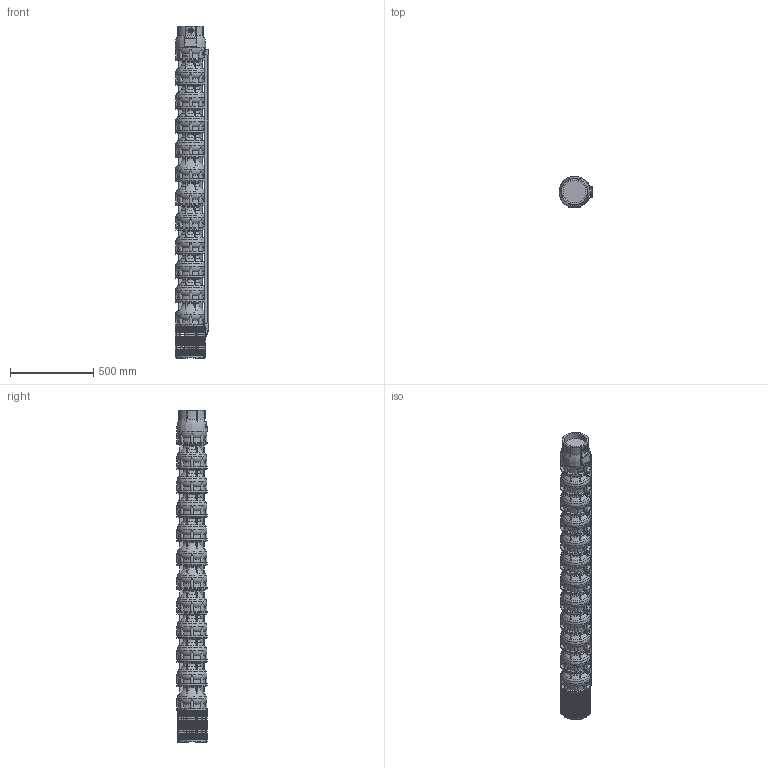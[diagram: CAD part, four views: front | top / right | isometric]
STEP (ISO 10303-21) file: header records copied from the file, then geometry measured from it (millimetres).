
FILE_DESCRIPTION(/* description */ ('Unknown'),/* implementation_level */ '2;1');
FILE_NAME(/* name */ 'VSI134-11_WR_M8-50_DLE',/* time_stamp */ '2023-09-14T14:37:12+02:00',/* author */ ('Unknown'),/* organization */ ('Unknown'),/* preprocessor_version */ 'ST-DEVELOPER v18.102',/* originating_system */ 'Solid Edge',/* authorisation */ 'Unknown');
FILE_SCHEMA (('AUTOMOTIVE_DESIGN {1 0 10303 214 3 1 1}'));
Products named in the file (11): VSI134-11_WR_M8-50_DLE; VSI134_testata; VSI134_diffusore; VSI134_supporto_8×8; VSI134_filtro_A; VSI134_filtro_B; VSI134_terminale_top_copricavo_basso; VSI134_terminale_bottom_copricavo_basso; LOW 134-11; M5X8_UNI7687; VSI134_giunto_8×8
Assembly tree (29 placements, depth 2):
  VSI134-11_WR_M8-50_DLE
    VSI134_testata
    VSI134_diffusore  x11
    VSI134_supporto_8×8
    VSI134_filtro_A
    VSI134_filtro_B
    VSI134_terminale_top_copricavo_basso
    VSI134_terminale_bottom_copricavo_basso
    LOW 134-11
    M5X8_UNI7687  x10
    VSI134_giunto_8×8
Bounding box: 201.57 x 183.52 x 1992 mm (x, y, z)
Volume: 36098196.6 mm3; surface area: 2684846.3 mm2
Topology: 68 solids, 70 shells, 4325 faces, 12221 edges, 8157 vertices
Faces by surface type: plane 3129, cylinder 564, torus 527, cone 62, bspline 31, sphere 12
Full cylindrical faces by diameter (mm): 2.4 x2, 3 x2, 4.2 x16, 5 x10, 5.5 x8, 26 x1, 44 x1, 69 x1, 74 x1, 98 x1, 135.472 x1, 157 x1, 182 x12
Entity records: 85545 total; most frequent: CARTESIAN_POINT 18362, ORIENTED_EDGE 14056, DIRECTION 13488, EDGE_CURVE 7028, VERTEX_POINT 4730, AXIS2_PLACEMENT_3D 4595, LINE 4298, VECTOR 4298
